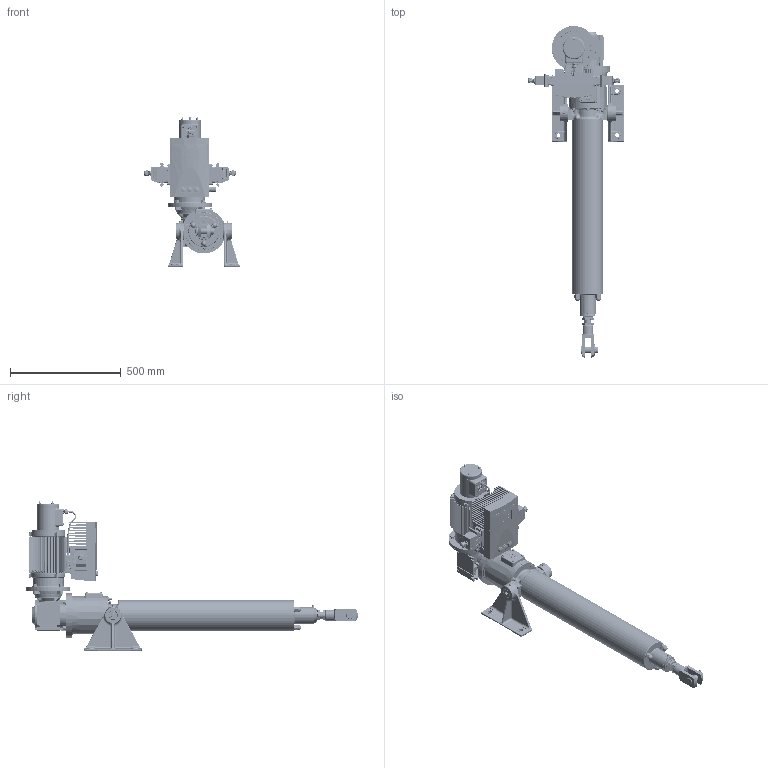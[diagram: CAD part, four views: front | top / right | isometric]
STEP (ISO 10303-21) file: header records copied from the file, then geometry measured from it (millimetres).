
FILE_DESCRIPTION( ( '153-599-4' ), '1' );
FILE_NAME( 'C:/daten/bearbeitung katalogbilder/RBs rendern/austausch pomplun/mit identnr/T1T6-RM-0600-160-243-8.stp', 'Unknown', ( 'Christoph Hahmann' ), ( 'RACO-ELEKTRO-MASCHINEN GmbH' ), 'PSStep 17.0.49', 'Solid Edge ST 7', ' ' );
FILE_SCHEMA( ( 'AUTOMOTIVE_DESIGN { 1 0 10303 214 1 1 1 1 }' ) );
Length unit declared in the file: millimetre
Products named in the file (20): Assem1; 03.01-06 kpl; 02.14-06-0600; 01.15-06-0600; 02.01-06 kpl; 01.14-06 kpl2; 157-713-1-3; Gehäuse A2- CAN; 01.01-06 Gabelkopf; 03.65-06-7; 10.02-04-08 105-983-12; 100-127-2; 149-836-3; 04.01-05-7-155; 90L4-141-907-2 mit Adapter; Kabel zum Motor 90L4; 10-101-443-9; 10.5-100-529-4; 10x30-157-448-5; BG2-155-450-6-kpl
Assembly tree (41 placements, depth 2):
  Assem1
    03.01-06 kpl
    02.14-06-0600
    01.15-06-0600
    02.01-06 kpl
    01.14-06 kpl2
    157-713-1-3
    Gehäuse A2- CAN
    01.01-06 Gabelkopf
    03.65-06-7  x2
    10.02-04-08 105-983-12
    100-127-2
    149-836-3
    04.01-05-7-155
    90L4-141-907-2 mit Adapter
    Kabel zum Motor 90L4
    10-101-443-9  x8
    10.5-100-529-4  x8
    10x30-157-448-5  x8
    BG2-155-450-6-kpl
Bounding box: 431.74 x 1499 x 675.5 mm (x, y, z)
Surface area: 2942667.2 mm2 (no closed solid volume)
Topology: 0 solids, 10538 shells, 10554 faces, 52429 edges, 51188 vertices
Faces by surface type: plane 5181, cylinder 2788, bspline 905, cone 884, torus 426, sphere 327, extrusion 38, revolution 5
Full cylindrical faces by diameter (mm): 1.6 x2, 2 x3, 2.6 x1, 3 x31, 3.141 x8, 3.242 x24, 4 x26, 4.134 x3, 4.188 x6, 4.4 x8, 4.5 x14, 4.773 x6, 4.917 x6, 5 x36, 5.3 x3, 5.5 x9, 5.7 x11, 6 x16, 6.4 x2, 6.647 x7, 7 x20, 7.5 x3, 7.6 x8, 7.99 x8, 8 x26, 8.15 x1, 8.2 x1, 8.376 x4, 8.4 x2, 9 x6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
Entity records: 753583 total; most frequent: CARTESIAN_POINT 305492, DIRECTION 78111, VERTEX_POINT 48695, ORIENTED_EDGE 48620, EDGE_CURVE 48620, AXIS2_PLACEMENT_3D 26282, VECTOR 25542, LINE 25504
